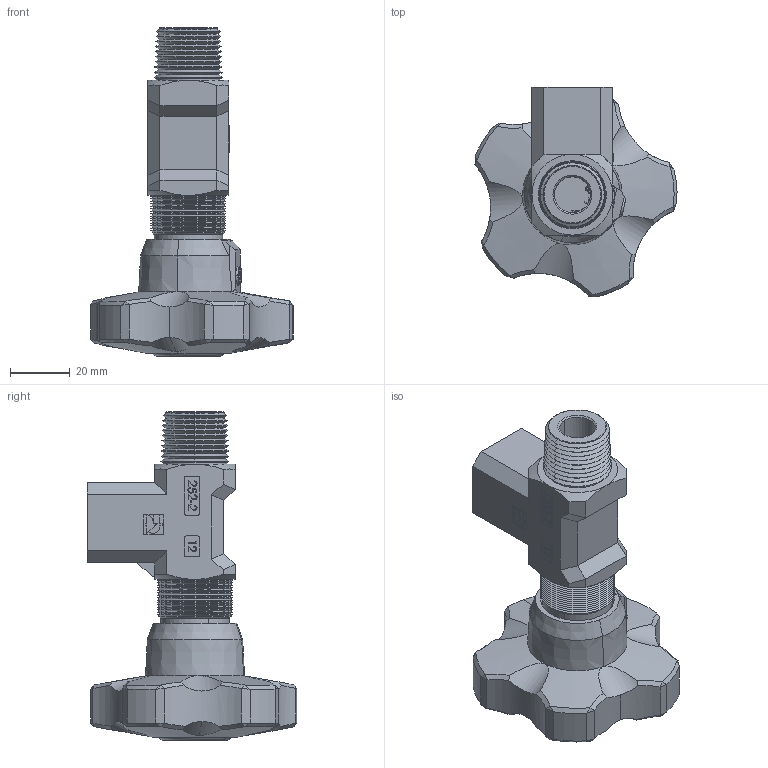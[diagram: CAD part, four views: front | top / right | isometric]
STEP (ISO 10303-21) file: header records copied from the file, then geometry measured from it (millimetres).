
FILE_DESCRIPTION (( 'STEP AP214' ), '1' );
FILE_NAME ('252-2-12 VOLANTINO ABS M-F.STEP', '2015-05-15T15:43:25', ( '' ), ( '' ), 'SwSTEP 2.0', 'SolidWorks 2014', '' );
FILE_SCHEMA (( 'AUTOMOTIVE_DESIGN' ));
Length unit declared in the file: millimetre
Products named in the file (1): 252-2-12 VOLANTINO ABS M-F
Bounding box: 67.54 x 69.99 x 109.75 mm (x, y, z)
Surface area: 26105.3 mm2 (no closed solid volume)
Topology: 0 solids, 15 shells, 589 faces, 1939 edges, 1306 vertices
Faces by surface type: plane 261, cone 193, cylinder 86, bspline 47, torus 2
Entity records: 33992 total; most frequent: CARTESIAN_POINT 11325, DIRECTION 3174, ORIENTED_EDGE 3171, EDGE_CURVE 1939, VERTEX_POINT 1306, VECTOR 1156, LINE 1156, AXIS2_PLACEMENT_3D 1009
